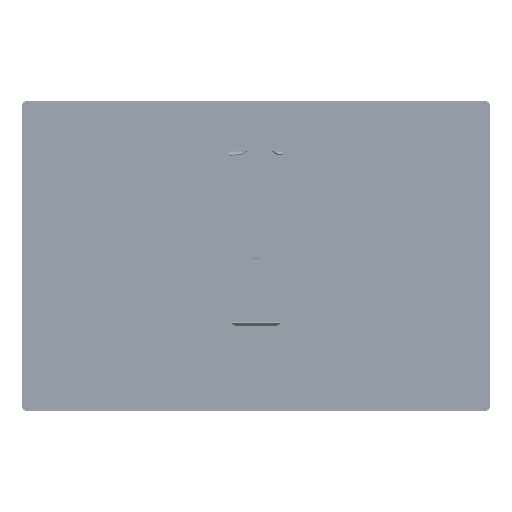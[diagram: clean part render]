
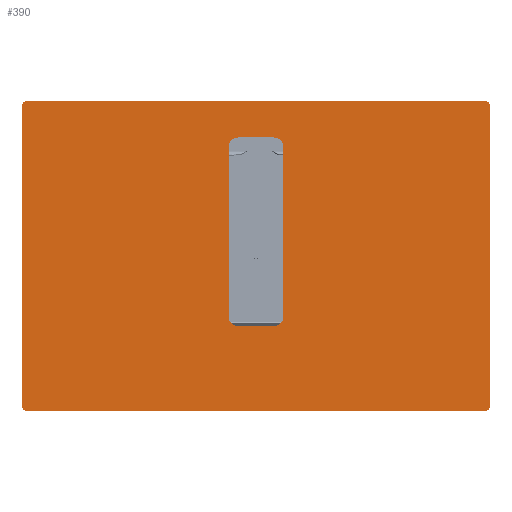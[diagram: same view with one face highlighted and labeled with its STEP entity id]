
A CAD part, top view. The second image highlights one B-rep face of the part: STEP entity #390.
In plain terms, the highlighted planar face has unit normal (0, 0, 1).
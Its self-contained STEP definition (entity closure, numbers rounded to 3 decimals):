
#59=CARTESIAN_POINT('Vertex',(-377.,255.,0.)) ;
#73=CARTESIAN_POINT('Vertex',(-385.,247.,0.)) ;
#76=CARTESIAN_POINT('Axis2P3D Location',(-377.,247.,0.)) ;
#107=CARTESIAN_POINT('Vertex',(377.,255.,0.)) ;
#115=CARTESIAN_POINT('Line Origine',(0.,255.,0.)) ;
#260=CARTESIAN_POINT('Vertex',(-385.,-247.,0.)) ;
#263=CARTESIAN_POINT('Line Origine',(-385.,0.,0.)) ;
#276=CARTESIAN_POINT('Axis2P3D Location',(0.,0.,0.)) ;
#281=CARTESIAN_POINT('Axis2P3D Location',(-377.,-247.,0.)) ;
#285=CARTESIAN_POINT('Vertex',(-377.,-255.,0.)) ;
#288=CARTESIAN_POINT('Line Origine',(0.,-255.,0.)) ;
#292=CARTESIAN_POINT('Vertex',(377.,-255.,0.)) ;
#295=CARTESIAN_POINT('Axis2P3D Location',(377.,-247.,0.)) ;
#299=CARTESIAN_POINT('Vertex',(385.,-247.,0.)) ;
#302=CARTESIAN_POINT('Line Origine',(385.,0.,0.)) ;
#306=CARTESIAN_POINT('Vertex',(385.,247.,0.)) ;
#309=CARTESIAN_POINT('Axis2P3D Location',(377.,247.,0.)) ;
#324=CARTESIAN_POINT('Line Origine',(0.,195.,0.)) ;
#328=CARTESIAN_POINT('Vertex',(30.,195.,0.)) ;
#330=CARTESIAN_POINT('Vertex',(-30.,195.,0.)) ;
#333=CARTESIAN_POINT('Axis2P3D Location',(30.,180.,0.)) ;
#337=CARTESIAN_POINT('Vertex',(45.,180.,0.)) ;
#340=CARTESIAN_POINT('Line Origine',(45.,40.,0.)) ;
#344=CARTESIAN_POINT('Vertex',(45.,-100.,0.)) ;
#347=CARTESIAN_POINT('Axis2P3D Location',(30.,-100.,0.)) ;
#351=CARTESIAN_POINT('Vertex',(30.,-115.,0.)) ;
#354=CARTESIAN_POINT('Line Origine',(0.,-115.,0.)) ;
#358=CARTESIAN_POINT('Vertex',(-30.,-115.,0.)) ;
#361=CARTESIAN_POINT('Axis2P3D Location',(-30.,-100.,0.)) ;
#365=CARTESIAN_POINT('Vertex',(-45.,-100.,0.)) ;
#368=CARTESIAN_POINT('Line Origine',(-45.,40.,0.)) ;
#372=CARTESIAN_POINT('Vertex',(-45.,180.,0.)) ;
#375=CARTESIAN_POINT('Axis2P3D Location',(-30.,180.,0.)) ;
#117=VECTOR('Line Direction',#116,1.) ;
#265=VECTOR('Line Direction',#264,1.) ;
#290=VECTOR('Line Direction',#289,1.) ;
#304=VECTOR('Line Direction',#303,1.) ;
#326=VECTOR('Line Direction',#325,1.) ;
#342=VECTOR('Line Direction',#341,1.) ;
#356=VECTOR('Line Direction',#355,1.) ;
#370=VECTOR('Line Direction',#369,1.) ;
#77=DIRECTION('Axis2P3D Direction',(0.,0.,1.)) ;
#116=DIRECTION('Vector Direction',(1.,0.,0.)) ;
#264=DIRECTION('Vector Direction',(0.,-1.,0.)) ;
#277=DIRECTION('Axis2P3D Direction',(0.,0.,1.)) ;
#278=DIRECTION('Axis2P3D XDirection',(1.,0.,0.)) ;
#282=DIRECTION('Axis2P3D Direction',(0.,0.,1.)) ;
#289=DIRECTION('Vector Direction',(-1.,0.,0.)) ;
#296=DIRECTION('Axis2P3D Direction',(0.,0.,1.)) ;
#303=DIRECTION('Vector Direction',(0.,1.,0.)) ;
#310=DIRECTION('Axis2P3D Direction',(0.,0.,1.)) ;
#325=DIRECTION('Vector Direction',(1.,0.,0.)) ;
#334=DIRECTION('Axis2P3D Direction',(0.,0.,1.)) ;
#341=DIRECTION('Vector Direction',(0.,1.,0.)) ;
#348=DIRECTION('Axis2P3D Direction',(0.,0.,1.)) ;
#355=DIRECTION('Vector Direction',(-1.,0.,0.)) ;
#362=DIRECTION('Axis2P3D Direction',(0.,0.,1.)) ;
#369=DIRECTION('Vector Direction',(0.,-1.,0.)) ;
#376=DIRECTION('Axis2P3D Direction',(0.,0.,1.)) ;
#78=AXIS2_PLACEMENT_3D('Circle Axis2P3D',#76,#77,$) ;
#279=AXIS2_PLACEMENT_3D('Plane Axis2P3D',#276,#277,#278) ;
#283=AXIS2_PLACEMENT_3D('Circle Axis2P3D',#281,#282,$) ;
#297=AXIS2_PLACEMENT_3D('Circle Axis2P3D',#295,#296,$) ;
#311=AXIS2_PLACEMENT_3D('Circle Axis2P3D',#309,#310,$) ;
#335=AXIS2_PLACEMENT_3D('Circle Axis2P3D',#333,#334,$) ;
#349=AXIS2_PLACEMENT_3D('Circle Axis2P3D',#347,#348,$) ;
#363=AXIS2_PLACEMENT_3D('Circle Axis2P3D',#361,#362,$) ;
#377=AXIS2_PLACEMENT_3D('Circle Axis2P3D',#375,#376,$) ;
#118=LINE('Line',#115,#117) ;
#266=LINE('Line',#263,#265) ;
#291=LINE('Line',#288,#290) ;
#305=LINE('Line',#302,#304) ;
#327=LINE('Line',#324,#326) ;
#343=LINE('Line',#340,#342) ;
#357=LINE('Line',#354,#356) ;
#371=LINE('Line',#368,#370) ;
#79=CIRCLE('generated circle',#78,8.) ;
#284=CIRCLE('generated circle',#283,8.) ;
#298=CIRCLE('generated circle',#297,8.) ;
#312=CIRCLE('generated circle',#311,8.) ;
#336=CIRCLE('generated circle',#335,15.) ;
#350=CIRCLE('generated circle',#349,15.) ;
#364=CIRCLE('generated circle',#363,15.) ;
#378=CIRCLE('generated circle',#377,15.) ;
#280=PLANE('',#279) ;
#389=FACE_BOUND('',#380,.T.) ;
#80=EDGE_CURVE('',#60,#74,#79,.T.) ;
#119=EDGE_CURVE('',#108,#60,#118,.F.) ;
#267=EDGE_CURVE('',#74,#261,#266,.T.) ;
#287=EDGE_CURVE('',#261,#286,#284,.T.) ;
#294=EDGE_CURVE('',#286,#293,#291,.F.) ;
#301=EDGE_CURVE('',#293,#300,#298,.T.) ;
#308=EDGE_CURVE('',#300,#307,#305,.T.) ;
#313=EDGE_CURVE('',#307,#108,#312,.T.) ;
#332=EDGE_CURVE('',#329,#331,#327,.F.) ;
#339=EDGE_CURVE('',#338,#329,#336,.T.) ;
#346=EDGE_CURVE('',#345,#338,#343,.T.) ;
#353=EDGE_CURVE('',#352,#345,#350,.T.) ;
#360=EDGE_CURVE('',#359,#352,#357,.F.) ;
#367=EDGE_CURVE('',#366,#359,#364,.T.) ;
#374=EDGE_CURVE('',#373,#366,#371,.T.) ;
#379=EDGE_CURVE('',#331,#373,#378,.T.) ;
#314=EDGE_LOOP('',(#315,#316,#317,#318,#319,#320,#321,#322)) ;
#380=EDGE_LOOP('',(#381,#382,#383,#384,#385,#386,#387,#388)) ;
#315=ORIENTED_EDGE('',*,*,#80,.T.) ;
#316=ORIENTED_EDGE('',*,*,#267,.T.) ;
#317=ORIENTED_EDGE('',*,*,#287,.T.) ;
#318=ORIENTED_EDGE('',*,*,#294,.T.) ;
#319=ORIENTED_EDGE('',*,*,#301,.T.) ;
#320=ORIENTED_EDGE('',*,*,#308,.T.) ;
#321=ORIENTED_EDGE('',*,*,#313,.T.) ;
#322=ORIENTED_EDGE('',*,*,#119,.T.) ;
#381=ORIENTED_EDGE('',*,*,#332,.F.) ;
#382=ORIENTED_EDGE('',*,*,#339,.F.) ;
#383=ORIENTED_EDGE('',*,*,#346,.F.) ;
#384=ORIENTED_EDGE('',*,*,#353,.F.) ;
#385=ORIENTED_EDGE('',*,*,#360,.F.) ;
#386=ORIENTED_EDGE('',*,*,#367,.F.) ;
#387=ORIENTED_EDGE('',*,*,#374,.F.) ;
#388=ORIENTED_EDGE('',*,*,#379,.F.) ;
#60=VERTEX_POINT('',#59) ;
#74=VERTEX_POINT('',#73) ;
#108=VERTEX_POINT('',#107) ;
#261=VERTEX_POINT('',#260) ;
#286=VERTEX_POINT('',#285) ;
#293=VERTEX_POINT('',#292) ;
#300=VERTEX_POINT('',#299) ;
#307=VERTEX_POINT('',#306) ;
#329=VERTEX_POINT('',#328) ;
#331=VERTEX_POINT('',#330) ;
#338=VERTEX_POINT('',#337) ;
#345=VERTEX_POINT('',#344) ;
#352=VERTEX_POINT('',#351) ;
#359=VERTEX_POINT('',#358) ;
#366=VERTEX_POINT('',#365) ;
#373=VERTEX_POINT('',#372) ;
#390=ADVANCED_FACE('M0494311 glass ceramics plate',(#323,#389),#280,.T.) ;
#323=FACE_OUTER_BOUND('',#314,.T.) ;
